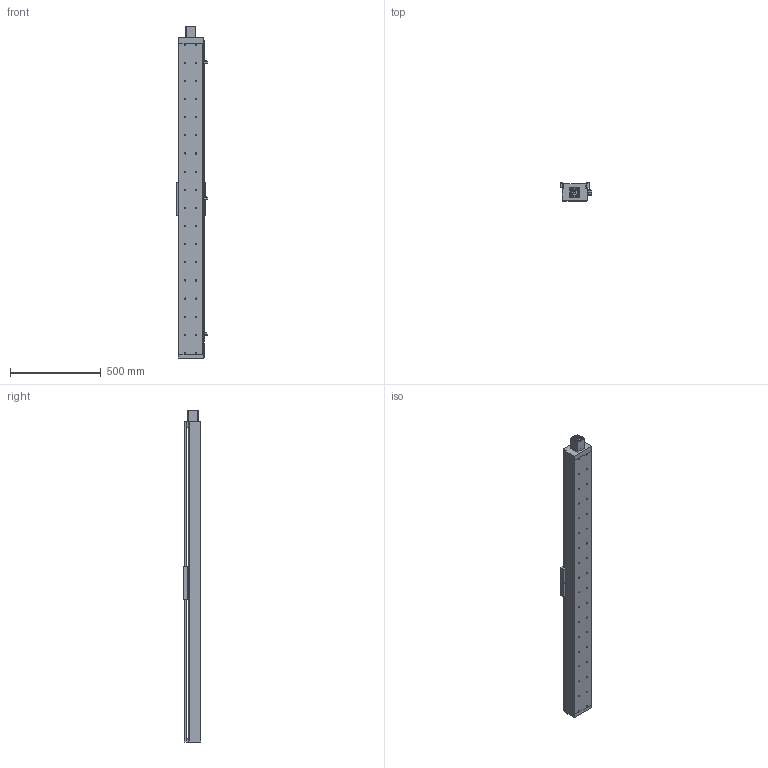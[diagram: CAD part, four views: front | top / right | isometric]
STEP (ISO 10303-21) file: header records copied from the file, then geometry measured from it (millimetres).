
FILE_DESCRIPTION((''),'2;1');
FILE_NAME('E:\libraries\UIA actuator library 2009\standard actuator\UIA136 ball screw 20\UIA136R15NDC stp file 27Apr16\UIA136R15NDC-1500-R20_ _-M60-P13-C10-S.stp','2016-04-27T15:58:14',('h029'),(''),'Autodesk Inventor 11','Autodesk Inventor 11','');
FILE_SCHEMA(('AUTOMOTIVE_DESIGN { 1 0 10303 214 1 1 1 1 }'));
Length unit declared in the file: millimetre
Products named in the file (10): UIA136R15NDC-1500; UIA136R15NDC-body; motor mount F60; SOH-32C; SOH-32C-3; SOH-32C-1; SOH-32C-2; Carriage; Sensor Switch; sensor rail
Assembly tree (9 placements, depth 3):
  UIA136R15NDC-1500
    UIA136R15NDC-body
    motor mount F60
    SOH-32C
      SOH-32C-3
      SOH-32C-1
      SOH-32C-2
    Carriage
    Sensor Switch
    sensor rail
Bounding box: 174.5 x 98 x 1830 mm (x, y, z)
Volume: 6446017.3 mm3; surface area: 1854695.4 mm2
Topology: 8 solids, 8 shells, 555 faces, 1425 edges, 937 vertices
Faces by surface type: plane 313, bspline 198, cylinder 40, cone 4
Full cylindrical faces by diameter (mm): 2.459 x2, 3.242 x2, 4.5 x2, 5.5 x3, 7.5 x2, 10 x2, 12 x1, 14 x1, 32 x3, 37 x1, 41.9 x1, 42.1 x1, 43.5 x1
Entity records: 18251 total; most frequent: CARTESIAN_POINT 5738, ORIENTED_EDGE 2378, DIRECTION 2314, EDGE_CURVE 1189, EDGE_LOOP 901, VERTEX_POINT 872, VECTOR 798, LINE 798
